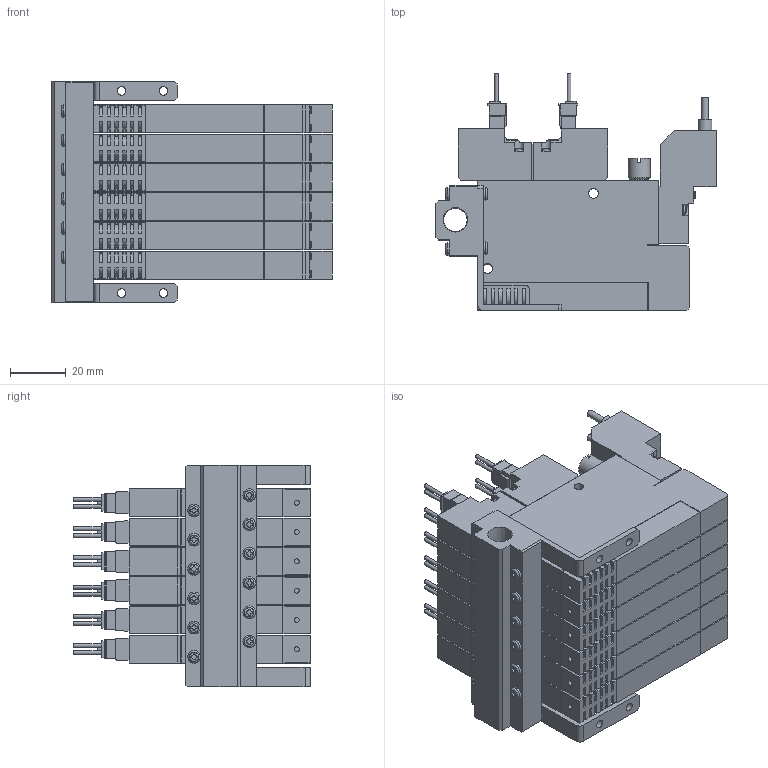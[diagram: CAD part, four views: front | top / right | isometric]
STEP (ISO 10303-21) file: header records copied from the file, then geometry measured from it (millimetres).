
FILE_DESCRIPTION(('STEP AP203'),'1');
FILE_NAME('5SS606_3D.stp','2024-09-04T23:10:48',(' '),(' '),'Spatial InterOp 3D',' ',' ');
FILE_SCHEMA(('CONFIG_CONTROL_DESIGN'));
Length unit declared in the file: millimetre
Products named in the file (5): BSC1M※※V8※5SS606; Solenoid valve S; Pressure Sensor V8; Unit-S; BaseMS60R
Assembly tree (19 placements, depth 2):
  BSC1M※※V8※5SS606
    Solenoid valve S  x6
    Pressure Sensor V8  x6
    Unit-S  x6
    BaseMS60R
Bounding box: 100.5 x 85.05 x 79.5 mm (x, y, z)
Volume: 297180.5 mm3; surface area: 121961.1 mm2
Topology: 19 solids, 19 shells, 2951 faces, 8067 edges, 5350 vertices
Faces by surface type: plane 2188, cylinder 651, cone 44, torus 40, sphere 28
Full cylindrical faces by diameter (mm): 1.4 x24, 1.8 x6, 2.5 x30, 3 x28, 3.5 x36, 4 x6, 4.134 x12, 4.5 x16, 5 x6, 5.5 x6, 7 x6, 7.7 x6, 8 x6, 8.422 x1
Entity records: 23139 total; most frequent: CARTESIAN_POINT 5197, DIRECTION 3575, ORIENTED_EDGE 3556, EDGE_CURVE 1778, VERTEX_POINT 1237, LINE 1221, VECTOR 1221, AXIS2_PLACEMENT_3D 1177
